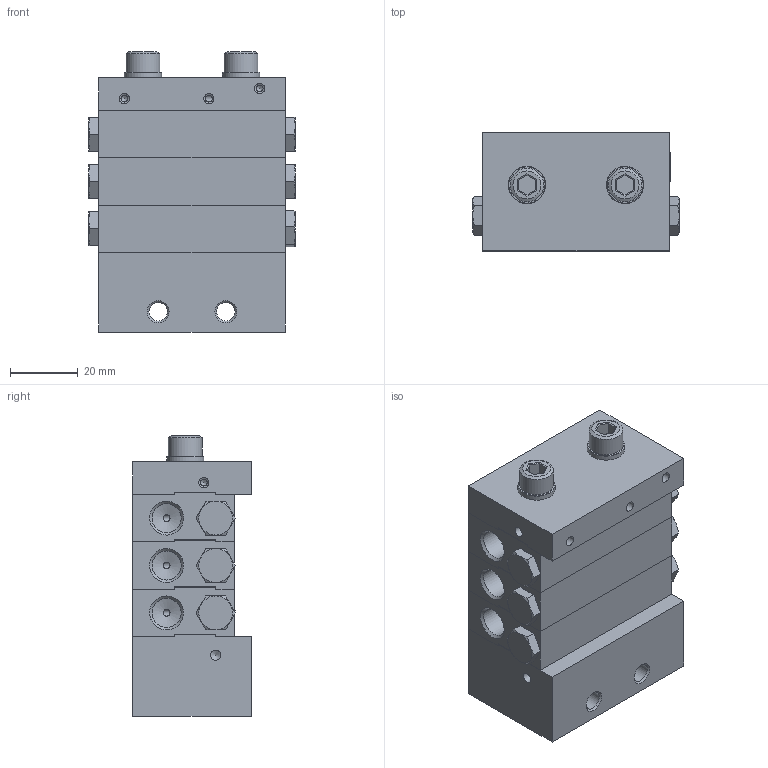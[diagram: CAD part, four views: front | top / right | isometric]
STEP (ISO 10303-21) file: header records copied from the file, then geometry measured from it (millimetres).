
FILE_DESCRIPTION (( 'STEP AP214' ), '1' );
FILE_NAME ('STW_XV_3_Auslässe.STEP', '2025-09-16T13:30:00', ( '' ), ( '' ), 'SwSTEP 2.0', 'SolidWorks 2022', '' );
FILE_SCHEMA (( 'AUTOMOTIVE_DESIGN' ));
Length unit declared in the file: millimetre
Products named in the file (11): Verschlussstopfen_1_8; M6X65_DIN_912; U_Scheibe_6; STW_XV_3_Auslässe; STW_XV_ENGANG; STW_XV_MITTEL_1; STW_XV_Verbindungsstopen; O_RING_3X1; STW_XV_Kolbenanschlag; STW_XV_END
Assembly tree (31 placements, depth 2):
  STW_XV_3_Auslässe
    STW_XV_ENGANG
    O_RING_3X1  x4
    STW_XV_MITTEL_1  x3
    STW_XV_END
    Verschlussstopfen_1_8  x6
    STW_XV_Kolbenanschlag  x6
    STW_XV_Verbindungsstopen  x3
    M6X65_DIN_912  x2
    U_Scheibe_6  x2
    Verschlussstopfen_1_8  x3
Bounding box: 61 x 35 x 82.8 mm (x, y, z)
Volume: 125958.7 mm3; surface area: 56464.9 mm2
Topology: 31 solids, 31 shells, 1161 faces, 3007 edges, 1918 vertices
Faces by surface type: plane 569, cylinder 277, cone 209, bspline 106
Full cylindrical faces by diameter (mm): 2 x89, 3 x10, 5 x38, 5.5 x2, 5.9 x2, 6 x2, 6.2 x8, 6.4 x2, 6.5 x6, 7 x6, 8 x6, 8.4 x3, 8.6 x15, 9 x7, 9.7 x9, 9.73 x3, 10 x8, 11 x2, 15 x1
Entity records: 37625 total; most frequent: CARTESIAN_POINT 18388, ORIENTED_EDGE 2596, DIRECTION 2137, EDGE_CURVE 1298, VERTEX_POINT 919, EDGE_LOOP 845, AXIS2_PLACEMENT_3D 724, VECTOR 689
